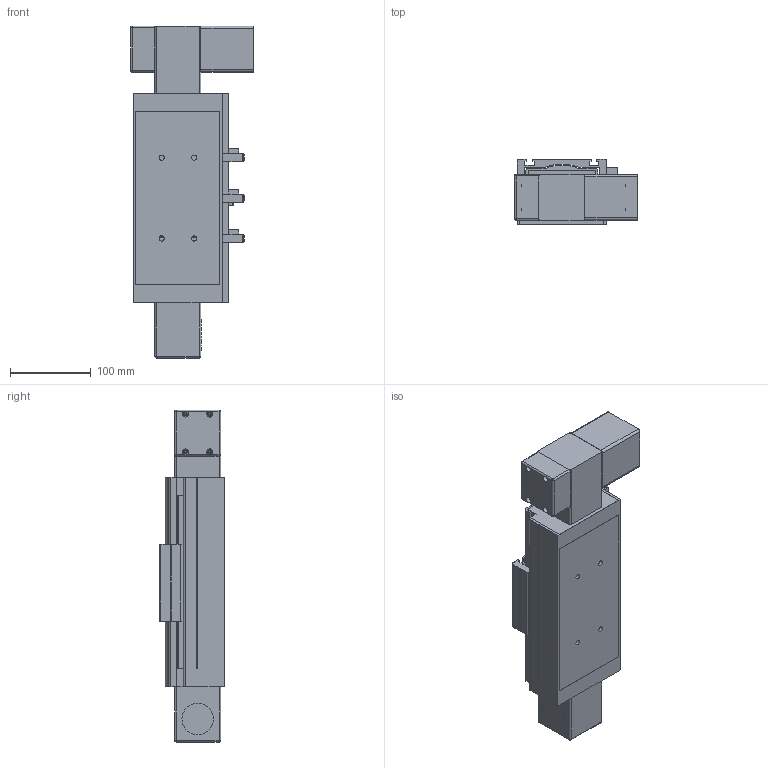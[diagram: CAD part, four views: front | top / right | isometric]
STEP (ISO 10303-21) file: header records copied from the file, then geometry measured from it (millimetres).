
FILE_DESCRIPTION((''),'2;1');
FILE_NAME('E:\uia actuator\UIA actuator 3d- 2015\Belt drive actuator\UIA110BR12(15)DC\UIA110BR12(15)DC-STEP FILE\UIA110BR12(15) stp file 13May16\UIA110BR12(15)DC-100-M23-P13-C10-S.stp','2016-05-13T14:37:24',('h029'),(''),'Autodesk Inventor 11','Autodesk Inventor 11','');
FILE_SCHEMA(('AUTOMOTIVE_DESIGN { 1 0 10303 214 1 1 1 1 }'));
Length unit declared in the file: millimetre
Products named in the file (11): UIA110BR12(15)DC-100; UIA110BR12(15)DC-100-body; UIA110BR12(15)DC-100-Sensor rail; UIA110B-Carriage; UIA110B- Sensor Flag; UIA110B-Cover; SOH-32C; SOH-32C-3; SOH-32C-1; SOH-32C-2; Motor mount
Assembly tree (10 placements, depth 3):
  UIA110BR12(15)DC-100
    UIA110BR12(15)DC-100-body
    UIA110BR12(15)DC-100-Sensor rail
    UIA110B-Carriage
    UIA110B- Sensor Flag
    UIA110B-Cover
    SOH-32C
      SOH-32C-3
      SOH-32C-1
      SOH-32C-2
    Motor mount
Bounding box: 152 x 81 x 411 mm (x, y, z)
Volume: 1731598.5 mm3; surface area: 394617.7 mm2
Topology: 9 solids, 13 shells, 692 faces, 1930 edges, 1248 vertices
Faces by surface type: plane 439, cylinder 163, cone 42, bspline 40, sphere 8
Full cylindrical faces by diameter (mm): 2.459 x4, 3 x2, 3.242 x8, 3.5 x4, 4 x10, 4.5 x4, 4.917 x8, 5 x2, 6.35 x1, 6.5 x4, 7.5 x4, 10 x3, 11 x4, 12 x1, 20 x2, 32 x3, 37 x1, 38.1 x1, 39 x2, 43.5 x1, 46 x2
Entity records: 22378 total; most frequent: CARTESIAN_POINT 5133, DIRECTION 3519, ORIENTED_EDGE 3390, EDGE_CURVE 1695, AXIS2_PLACEMENT_3D 1180, VERTEX_POINT 1168, VECTOR 1159, LINE 1159
